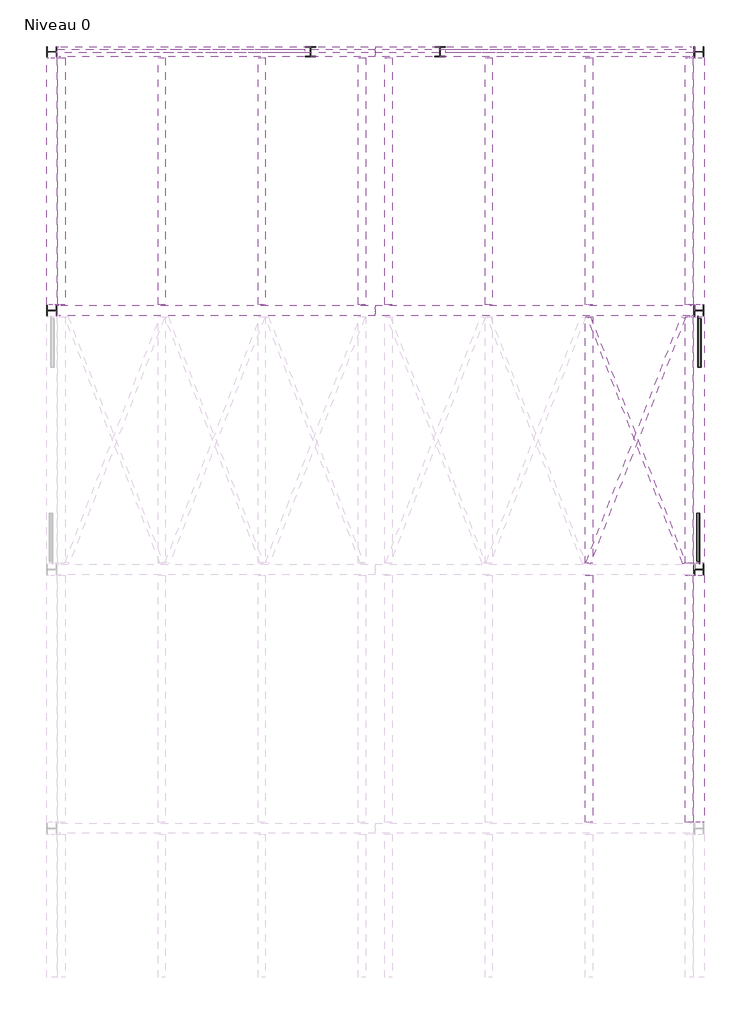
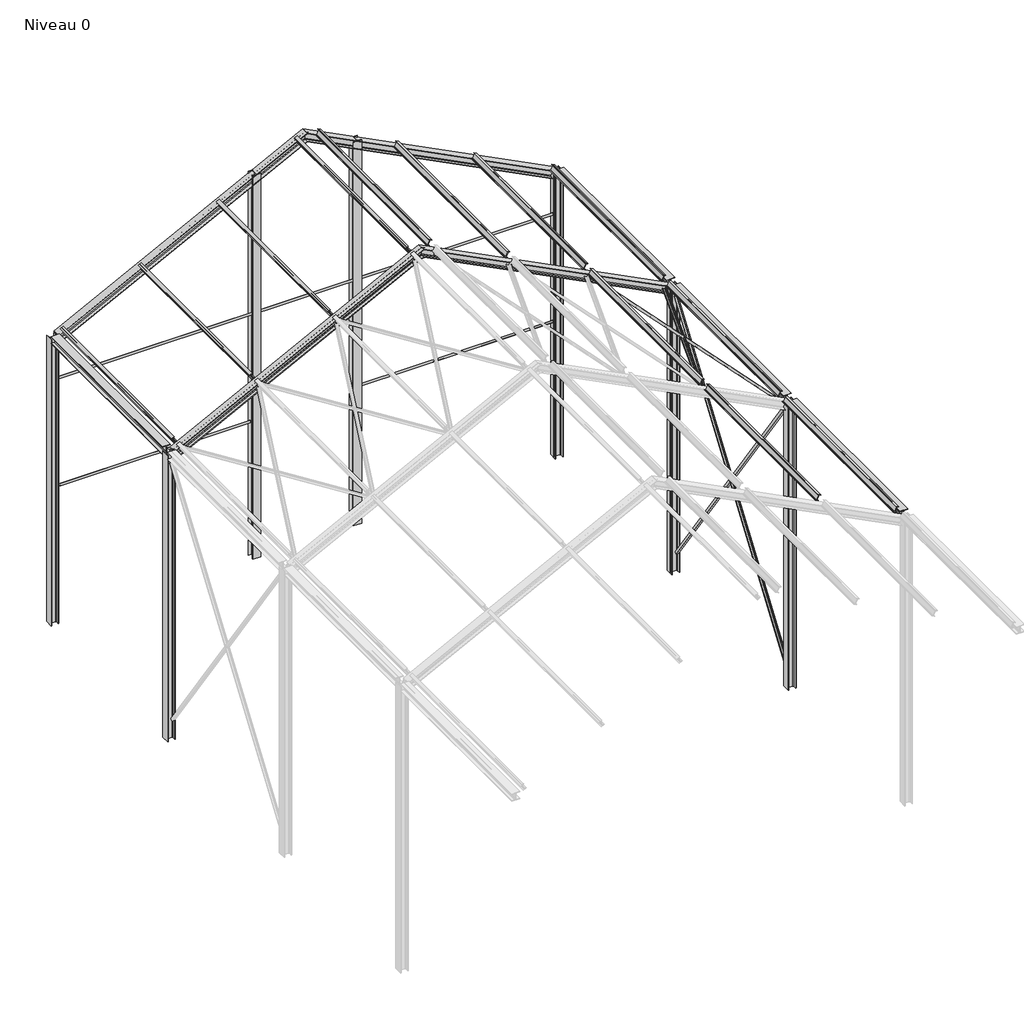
# One storey, part 3 of 3: 27 beams, 7 columns.
"""IFC4 building model written with IfcOpenShell, lengths in millimetres."""

from ifc_helpers import new_model, si_unit, frame, origin, place, context, project, spatial, polyline, circle_curve, ellipse_curve, transform, mapped, element, save
from ifc_brep_helpers import plane_surface, revolved_surface, advanced_brep
from components import hea160_7b7a9898, ipe_ipe120_a764803e, l50x5_0b9c2f02, l50x5_4d45e271, l50x5_e48557e0, l50x5_54bbfbbe, l50x5_995c440c, l50x5_1feda4a4, hea160_ef068d4c, hea160_0ed8a569

model = new_model("IFC4")

# Units and contexts
model_context = context("Model", 3, world=origin())
ifc_project = project(units=[si_unit("LENGTHUNIT", "METRE", prefix="MILLI")], contexts=[model_context])

# Site, building, storey
site = spatial("IfcSite", under=ifc_project)
building = spatial("IfcBuilding", under=site)
storey = spatial("IfcBuildingStorey", under=building, Name="Niveau 0", Elevation=0.0)

# Beams
placement = place(None, origin())
element("IfcBeam", 1, ObjectType="HE-A : HEA160", at=placement, inside=storey, context=model_context, shape_type="AdvancedBrep", body=[
    advanced_brep(
    [(136.5957173, 15920.0, 5609.1403443), (136.5957173, 15982.0, 5609.1403443), (129.7808261, 15997.0, 5622.5028762), (82.5309134, 15997.0, 5715.1497636), (75.7160222, 15982.0, 5728.5122955), (75.7160222, 15920.0, 5728.5122955), (71.6270875, 15920.0, 5736.5298146), (71.6270875, 16080.0, 5736.5298146), (75.7160222, 16080.0, 5728.5122955), (75.7160222, 16018.0, 5728.5122955), (82.5309134, 16003.0, 5715.1497636), (129.7808261, 16003.0, 5622.5028762), (136.5957173, 16018.0, 5609.1403443), (136.5957173, 16080.0, 5609.1403443), (140.684652, 16080.0, 5601.1228252), (140.684652, 15920.0, 5601.1228252), (5000.0, 15920.0, 8089.4765285), (5000.0, 15982.0, 8089.4765285), (5000.0, 15997.0, 8106.3146549), (5000.0, 15997.0, 8223.0589978), (5000.0, 15982.0, 8239.8971242), (5000.0, 15920.0, 8239.8971242), (5000.0, 15920.0, 8250.0), (5000.0, 16080.0, 8250.0), (5000.0, 16080.0, 8239.8971242), (5000.0, 16018.0, 8239.8971242), (5000.0, 16003.0, 8223.0589978), (5000.0, 16003.0, 8106.3146549), (5000.0, 16018.0, 8089.4765285), (5000.0, 16080.0, 8089.4765285), (5000.0, 16080.0, 8079.3736527), (5000.0, 15920.0, 8079.3736527)],
    [
        (0, 1),
        (1, 2, circle_curve(frame((129.7808261, 15982.0, 5622.5028762), z_axis=(0.8908354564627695, 0.0, 0.4543260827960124), x_axis=(0.0, 1.0, 0.0)), 15.0)),
        (2, 3),
        (3, 4, circle_curve(frame((82.5309134, 15982.0, 5715.1497636), z_axis=(0.8908354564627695, 0.0, 0.4543260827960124), x_axis=(0.0, 1.0, 0.0)), 15.0)),
        (4, 5),
        (5, 6),
        (6, 7),
        (7, 8),
        (8, 9),
        (9, 10, circle_curve(frame((82.5309134, 16018.0, 5715.1497636), z_axis=(0.8908354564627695, 0.0, 0.4543260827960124), x_axis=(0.0, 1.0, 0.0)), 15.0)),
        (10, 11),
        (11, 12, circle_curve(frame((129.7808261, 16018.0, 5622.5028762), z_axis=(0.8908354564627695, 0.0, 0.4543260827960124), x_axis=(0.0, 1.0, 0.0)), 15.0)),
        (12, 13),
        (13, 14),
        (14, 15),
        (15, 0),
        (0, 16),
        (16, 17),
        (17, 1),
        (17, 18, ellipse_curve(frame((5000.0, 15982.0, 8106.3146549), z_axis=(1.0, 0.0, 0.0), x_axis=(0.0, 0.0, 1.0)), 16.8381264, 15.0)),
        (18, 2),
        (18, 19),
        (19, 3),
        (19, 20, ellipse_curve(frame((5000.0, 15982.0, 8223.0589978), z_axis=(1.0, 0.0, 0.0), x_axis=(0.0, 0.0, 1.0)), 16.8381264, 15.0)),
        (20, 4),
        (20, 21),
        (21, 5),
        (21, 22),
        (22, 6),
        (22, 23),
        (23, 7),
        (23, 24),
        (24, 8),
        (24, 25),
        (25, 9),
        (25, 26, ellipse_curve(frame((5000.0, 16018.0, 8223.0589978), z_axis=(1.0, 0.0, 0.0), x_axis=(0.0, 0.0, 1.0)), 16.8381264, 15.0)),
        (26, 10),
        (26, 27),
        (27, 11),
        (27, 28, ellipse_curve(frame((5000.0, 16018.0, 8106.3146549), z_axis=(1.0, 0.0, 0.0), x_axis=(0.0, 0.0, 1.0)), 16.8381264, 15.0)),
        (28, 12),
        (28, 29),
        (29, 13),
        (29, 30),
        (30, 14),
        (30, 31),
        (31, 15),
        (31, 16),
    ],
    [
        plane_surface(frame((106.1558697, 16000.0, 5668.8263199), z_axis=(-0.8908354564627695, 0.0, -0.4543260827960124), x_axis=(-0.4543260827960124, 0.0, 0.8908354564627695))),
        plane_surface(frame((136.5957173, 15920.0, 5609.1403443), z_axis=(-0.4543260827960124, 0.0, 0.8908354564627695), x_axis=(0.8908354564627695, 0.0, 0.4543260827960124))),
        revolved_surface(polyline([(5006.814891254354, 15997.0, 8109.790249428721), (129.78082604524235, 15997.0, 5622.502876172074)]), (129.7808261, 15982.0, 5622.5028762), (0.8908354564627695, 0.0, 0.4543260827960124)),
        plane_surface(frame((129.7808261, 15997.0, 5622.5028762), z_axis=(0.0, -1.0, 0.0), x_axis=(0.8908354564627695, 0.0, 0.4543260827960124))),
        revolved_surface(polyline([(5006.8148912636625, 15997.0, 8226.534592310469), (82.5309134, 15997.0, 5715.1497636)]), (82.5309134, 15982.0, 5715.1497636), (0.8908354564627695, 0.0, 0.4543260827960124)),
        plane_surface(frame((75.7160222, 15982.0, 5728.5122955), z_axis=(0.4543260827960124, 0.0, -0.8908354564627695), x_axis=(0.8908354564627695, 0.0, 0.4543260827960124))),
        plane_surface(frame((75.7160222, 15920.0, 5728.5122955), z_axis=(0.0, -1.0, 0.0), x_axis=(0.8908354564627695, 0.0, 0.4543260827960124))),
        plane_surface(frame((71.6270875, 15920.0, 5736.5298146), z_axis=(-0.4543260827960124, 0.0, 0.8908354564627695), x_axis=(0.8908354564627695, 0.0, 0.4543260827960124))),
        plane_surface(frame((71.6270875, 16080.0, 5736.5298146), z_axis=(0.0, 1.0, 0.0), x_axis=(0.8908354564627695, 0.0, 0.4543260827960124))),
        plane_surface(frame((75.7160222, 16080.0, 5728.5122955), z_axis=(0.4543260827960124, 0.0, -0.8908354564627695), x_axis=(0.8908354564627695, 0.0, 0.4543260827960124))),
        revolved_surface(polyline([(5006.8148912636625, 16033.0, 8226.534592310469), (82.5309134, 16033.0, 5715.1497636)]), (82.5309134, 16018.0, 5715.1497636), (0.8908354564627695, 0.0, 0.4543260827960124)),
        plane_surface(frame((82.5309134, 16003.0, 5715.1497636), z_axis=(0.0, 1.0, 0.0), x_axis=(0.8908354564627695, 0.0, 0.4543260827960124))),
        revolved_surface(polyline([(5006.814891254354, 16033.0, 8109.790249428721), (129.78082604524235, 16033.0, 5622.502876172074)]), (129.7808261, 16018.0, 5622.5028762), (0.8908354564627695, 0.0, 0.4543260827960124)),
        plane_surface(frame((136.5957173, 16018.0, 5609.1403443), z_axis=(-0.4543260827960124, 0.0, 0.8908354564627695), x_axis=(0.8908354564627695, 0.0, 0.4543260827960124))),
        plane_surface(frame((136.5957173, 16080.0, 5609.1403443), z_axis=(0.0, 1.0, 0.0), x_axis=(0.8908354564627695, 0.0, 0.4543260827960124))),
        plane_surface(frame((140.684652, 16080.0, 5601.1228252), z_axis=(0.4543260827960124, 0.0, -0.8908354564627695), x_axis=(0.8908354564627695, 0.0, 0.4543260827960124))),
        plane_surface(frame((140.684652, 15920.0, 5601.1228252), z_axis=(0.0, -1.0, 0.0), x_axis=(0.8908354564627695, 0.0, 0.4543260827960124))),
        plane_surface(frame((5000.0, 16000.0, 8079.3736527), z_axis=(1.0, 0.0, 0.0), x_axis=(0.0, -1.0, 0.0))),
    ],
    [
        (0, [[1, 2, 3, 4, 5, 6, 7, 8, 9, 10, 11, 12, 13, 14, 15, 16]]),
        (1, [[-1, 17, 18, 19]]),
        (2, [[-2, -19, 20, 21]]),
        (3, [[-3, -21, 22, 23]]),
        (4, [[-4, -23, 24, 25]]),
        (5, [[-5, -25, 26, 27]]),
        (6, [[-6, -27, 28, 29]]),
        (7, [[-7, -29, 30, 31]]),
        (8, [[-8, -31, 32, 33]]),
        (9, [[-9, -33, 34, 35]]),
        (10, [[-10, -35, 36, 37]]),
        (11, [[-11, -37, 38, 39]]),
        (12, [[-12, -39, 40, 41]]),
        (13, [[-13, -41, 42, 43]]),
        (14, [[-14, -43, 44, 45]]),
        (15, [[-15, -45, 46, 47]]),
        (16, [[-16, -47, 48, -17]]),
        (17, [[-48, -46, -44, -42, -40, -38, -36, -34, -32, -30, -28, -26, -24, -22, -20, -18]]),
    ],
),
])
element("IfcBeam", 2, ObjectType="HE-A : HEA160", at=placement, inside=storey, context=model_context, shape_type="AdvancedBrep", body=[
    advanced_brep(
    [(9863.4042827, 16080.0, 5609.1403443), (9863.4042827, 16018.0, 5609.1403443), (9870.2191739, 16003.0, 5622.5028762), (9917.4690866, 16003.0, 5715.1497636), (9924.2839778, 16018.0, 5728.5122955), (9924.2839778, 16080.0, 5728.5122955), (9928.3729125, 16080.0, 5736.5298146), (9928.3729125, 15920.0, 5736.5298146), (9924.2839778, 15920.0, 5728.5122955), (9924.2839778, 15982.0, 5728.5122955), (9917.4690866, 15997.0, 5715.1497636), (9870.2191739, 15997.0, 5622.5028762), (9863.4042827, 15982.0, 5609.1403443), (9863.4042827, 15920.0, 5609.1403443), (9859.315348, 15920.0, 5601.1228252), (9859.315348, 16080.0, 5601.1228252), (5000.0, 16080.0, 8089.4765285), (5000.0, 16018.0, 8089.4765285), (5000.0, 16003.0, 8106.3146549), (5000.0, 16003.0, 8223.0589978), (5000.0, 16018.0, 8239.8971242), (5000.0, 16080.0, 8239.8971242), (5000.0, 16080.0, 8250.0), (5000.0, 15920.0, 8250.0), (5000.0, 15920.0, 8239.8971242), (5000.0, 15982.0, 8239.8971242), (5000.0, 15997.0, 8223.0589978), (5000.0, 15997.0, 8106.3146549), (5000.0, 15982.0, 8089.4765285), (5000.0, 15920.0, 8089.4765285), (5000.0, 15920.0, 8079.3736527), (5000.0, 16080.0, 8079.3736527)],
    [
        (0, 1),
        (1, 2, circle_curve(frame((9870.2191739, 16018.0, 5622.5028762), z_axis=(-0.8908354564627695, 0.0, 0.4543260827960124), x_axis=(0.0, -1.0, 0.0)), 15.0)),
        (2, 3),
        (3, 4, circle_curve(frame((9917.4690866, 16018.0, 5715.1497636), z_axis=(-0.8908354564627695, 0.0, 0.4543260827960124), x_axis=(0.0, -1.0, 0.0)), 15.0)),
        (4, 5),
        (5, 6),
        (6, 7),
        (7, 8),
        (8, 9),
        (9, 10, circle_curve(frame((9917.4690866, 15982.0, 5715.1497636), z_axis=(-0.8908354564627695, 0.0, 0.4543260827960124), x_axis=(0.0, -1.0, 0.0)), 15.0)),
        (10, 11),
        (11, 12, circle_curve(frame((9870.2191739, 15982.0, 5622.5028762), z_axis=(-0.8908354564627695, 0.0, 0.4543260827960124), x_axis=(0.0, -1.0, 0.0)), 15.0)),
        (12, 13),
        (13, 14),
        (14, 15),
        (15, 0),
        (0, 16),
        (16, 17),
        (17, 1),
        (17, 18, ellipse_curve(frame((5000.0, 16018.0, 8106.3146549), z_axis=(-1.0, 0.0, 0.0), x_axis=(0.0, 0.0, 1.0)), 16.8381264, 15.0)),
        (18, 2),
        (18, 19),
        (19, 3),
        (19, 20, ellipse_curve(frame((5000.0, 16018.0, 8223.0589978), z_axis=(-1.0, 0.0, 0.0), x_axis=(0.0, 0.0, 1.0)), 16.8381264, 15.0)),
        (20, 4),
        (20, 21),
        (21, 5),
        (21, 22),
        (22, 6),
        (22, 23),
        (23, 7),
        (23, 24),
        (24, 8),
        (24, 25),
        (25, 9),
        (25, 26, ellipse_curve(frame((5000.0, 15982.0, 8223.0589978), z_axis=(-1.0, 0.0, 0.0), x_axis=(0.0, 0.0, 1.0)), 16.8381264, 15.0)),
        (26, 10),
        (26, 27),
        (27, 11),
        (27, 28, ellipse_curve(frame((5000.0, 15982.0, 8106.3146549), z_axis=(-1.0, 0.0, 0.0), x_axis=(0.0, 0.0, 1.0)), 16.8381264, 15.0)),
        (28, 12),
        (28, 29),
        (29, 13),
        (29, 30),
        (30, 14),
        (30, 31),
        (31, 15),
        (31, 16),
    ],
    [
        plane_surface(frame((9893.8441303, 16000.0, 5668.8263199), z_axis=(0.8908354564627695, 0.0, -0.4543260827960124), x_axis=(0.4543260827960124, 0.0, 0.8908354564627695))),
        plane_surface(frame((9863.4042827, 16080.0, 5609.1403443), z_axis=(0.4543260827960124, 0.0, 0.8908354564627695), x_axis=(-0.8908354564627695, 0.0, 0.4543260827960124))),
        revolved_surface(polyline([(4993.185108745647, 16003.0, 8109.790249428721), (9870.219173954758, 16003.0, 5622.502876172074)]), (9870.2191739, 16018.0, 5622.5028762), (-0.8908354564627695, 0.0, 0.4543260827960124)),
        plane_surface(frame((9870.2191739, 16003.0, 5622.5028762), z_axis=(0.0, 1.0, 0.0), x_axis=(-0.8908354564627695, 0.0, 0.4543260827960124))),
        revolved_surface(polyline([(4993.1851087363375, 16003.0, 8226.534592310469), (9917.4690866, 16003.0, 5715.1497636)]), (9917.4690866, 16018.0, 5715.1497636), (-0.8908354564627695, 0.0, 0.4543260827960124)),
        plane_surface(frame((9924.2839778, 16018.0, 5728.5122955), z_axis=(-0.4543260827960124, 0.0, -0.8908354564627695), x_axis=(-0.8908354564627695, 0.0, 0.4543260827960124))),
        plane_surface(frame((9924.2839778, 16080.0, 5728.5122955), z_axis=(0.0, 1.0, 0.0), x_axis=(-0.8908354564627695, 0.0, 0.4543260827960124))),
        plane_surface(frame((9928.3729125, 16080.0, 5736.5298146), z_axis=(0.4543260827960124, 0.0, 0.8908354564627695), x_axis=(-0.8908354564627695, 0.0, 0.4543260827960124))),
        plane_surface(frame((9928.3729125, 15920.0, 5736.5298146), z_axis=(0.0, -1.0, 0.0), x_axis=(-0.8908354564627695, 0.0, 0.4543260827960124))),
        plane_surface(frame((9924.2839778, 15920.0, 5728.5122955), z_axis=(-0.4543260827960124, 0.0, -0.8908354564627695), x_axis=(-0.8908354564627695, 0.0, 0.4543260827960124))),
        revolved_surface(polyline([(4993.1851087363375, 15967.0, 8226.534592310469), (9917.4690866, 15967.0, 5715.1497636)]), (9917.4690866, 15982.0, 5715.1497636), (-0.8908354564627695, 0.0, 0.4543260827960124)),
        plane_surface(frame((9917.4690866, 15997.0, 5715.1497636), z_axis=(0.0, -1.0, 0.0), x_axis=(-0.8908354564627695, 0.0, 0.4543260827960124))),
        revolved_surface(polyline([(4993.185108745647, 15967.0, 8109.790249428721), (9870.219173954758, 15967.0, 5622.502876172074)]), (9870.2191739, 15982.0, 5622.5028762), (-0.8908354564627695, 0.0, 0.4543260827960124)),
        plane_surface(frame((9863.4042827, 15982.0, 5609.1403443), z_axis=(0.4543260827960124, 0.0, 0.8908354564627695), x_axis=(-0.8908354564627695, 0.0, 0.4543260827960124))),
        plane_surface(frame((9863.4042827, 15920.0, 5609.1403443), z_axis=(0.0, -1.0, 0.0), x_axis=(-0.8908354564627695, 0.0, 0.4543260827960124))),
        plane_surface(frame((9859.315348, 15920.0, 5601.1228252), z_axis=(-0.4543260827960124, 0.0, -0.8908354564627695), x_axis=(-0.8908354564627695, 0.0, 0.4543260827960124))),
        plane_surface(frame((9859.315348, 16080.0, 5601.1228252), z_axis=(0.0, 1.0, 0.0), x_axis=(-0.8908354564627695, 0.0, 0.4543260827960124))),
        plane_surface(frame((5000.0, 16000.0, 8079.3736527), z_axis=(-1.0, 0.0, 0.0), x_axis=(0.0, 1.0, 0.0))),
    ],
    [
        (0, [[1, 2, 3, 4, 5, 6, 7, 8, 9, 10, 11, 12, 13, 14, 15, 16]]),
        (1, [[-1, 17, 18, 19]]),
        (2, [[-2, -19, 20, 21]]),
        (3, [[-3, -21, 22, 23]]),
        (4, [[-4, -23, 24, 25]]),
        (5, [[-5, -25, 26, 27]]),
        (6, [[-6, -27, 28, 29]]),
        (7, [[-7, -29, 30, 31]]),
        (8, [[-8, -31, 32, 33]]),
        (9, [[-9, -33, 34, 35]]),
        (10, [[-10, -35, 36, 37]]),
        (11, [[-11, -37, 38, 39]]),
        (12, [[-12, -39, 40, 41]]),
        (13, [[-13, -41, 42, 43]]),
        (14, [[-14, -43, 44, 45]]),
        (15, [[-15, -45, 46, 47]]),
        (16, [[-16, -47, 48, -17]]),
        (17, [[-48, -46, -44, -42, -40, -38, -36, -34, -32, -30, -28, -26, -24, -22, -20, -18]]),
    ],
),
])
element("IfcBeam", 3, ObjectType="HE-A : HEA160", at=placement, inside=storey, context=model_context, shape_type="AdvancedBrep", body=[
    advanced_brep(
    [(136.5957173, 19920.0, 5609.1403443), (136.5957173, 19982.0, 5609.1403443), (129.7808261, 19997.0, 5622.5028762), (82.5309134, 19997.0, 5715.1497636), (75.7160222, 19982.0, 5728.5122955), (75.7160222, 19920.0, 5728.5122955), (71.6270875, 19920.0, 5736.5298146), (71.6270875, 20080.0, 5736.5298146), (75.7160222, 20080.0, 5728.5122955), (75.7160222, 20018.0, 5728.5122955), (82.5309134, 20003.0, 5715.1497636), (129.7808261, 20003.0, 5622.5028762), (136.5957173, 20018.0, 5609.1403443), (136.5957173, 20080.0, 5609.1403443), (140.684652, 20080.0, 5601.1228252), (140.684652, 19920.0, 5601.1228252), (5000.0, 19920.0, 8089.4765285), (5000.0, 19982.0, 8089.4765285), (5000.0, 19997.0, 8106.3146549), (5000.0, 19997.0, 8223.0589978), (5000.0, 19982.0, 8239.8971242), (5000.0, 19920.0, 8239.8971242), (5000.0, 19920.0, 8250.0), (5000.0, 20080.0, 8250.0), (5000.0, 20080.0, 8239.8971242), (5000.0, 20018.0, 8239.8971242), (5000.0, 20003.0, 8223.0589978), (5000.0, 20003.0, 8106.3146549), (5000.0, 20018.0, 8089.4765285), (5000.0, 20080.0, 8089.4765285), (5000.0, 20080.0, 8079.3736527), (5000.0, 19920.0, 8079.3736527)],
    [
        (0, 1),
        (1, 2, circle_curve(frame((129.7808261, 19982.0, 5622.5028762), z_axis=(0.8908354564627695, 0.0, 0.4543260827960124), x_axis=(0.0, 1.0, 0.0)), 15.0)),
        (2, 3),
        (3, 4, circle_curve(frame((82.5309134, 19982.0, 5715.1497636), z_axis=(0.8908354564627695, 0.0, 0.4543260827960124), x_axis=(0.0, 1.0, 0.0)), 15.0)),
        (4, 5),
        (5, 6),
        (6, 7),
        (7, 8),
        (8, 9),
        (9, 10, circle_curve(frame((82.5309134, 20018.0, 5715.1497636), z_axis=(0.8908354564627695, 0.0, 0.4543260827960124), x_axis=(0.0, 1.0, 0.0)), 15.0)),
        (10, 11),
        (11, 12, circle_curve(frame((129.7808261, 20018.0, 5622.5028762), z_axis=(0.8908354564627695, 0.0, 0.4543260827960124), x_axis=(0.0, 1.0, 0.0)), 15.0)),
        (12, 13),
        (13, 14),
        (14, 15),
        (15, 0),
        (0, 16),
        (16, 17),
        (17, 1),
        (17, 18, ellipse_curve(frame((5000.0, 19982.0, 8106.3146549), z_axis=(1.0, 0.0, 0.0), x_axis=(0.0, 0.0, 1.0)), 16.8381264, 15.0)),
        (18, 2),
        (18, 19),
        (19, 3),
        (19, 20, ellipse_curve(frame((5000.0, 19982.0, 8223.0589978), z_axis=(1.0, 0.0, 0.0), x_axis=(0.0, 0.0, 1.0)), 16.8381264, 15.0)),
        (20, 4),
        (20, 21),
        (21, 5),
        (21, 22),
        (22, 6),
        (22, 23),
        (23, 7),
        (23, 24),
        (24, 8),
        (24, 25),
        (25, 9),
        (25, 26, ellipse_curve(frame((5000.0, 20018.0, 8223.0589978), z_axis=(1.0, 0.0, 0.0), x_axis=(0.0, 0.0, 1.0)), 16.8381264, 15.0)),
        (26, 10),
        (26, 27),
        (27, 11),
        (27, 28, ellipse_curve(frame((5000.0, 20018.0, 8106.3146549), z_axis=(1.0, 0.0, 0.0), x_axis=(0.0, 0.0, 1.0)), 16.8381264, 15.0)),
        (28, 12),
        (28, 29),
        (29, 13),
        (29, 30),
        (30, 14),
        (30, 31),
        (31, 15),
        (31, 16),
    ],
    [
        plane_surface(frame((106.1558697, 20000.0, 5668.8263199), z_axis=(-0.8908354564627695, 0.0, -0.4543260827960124), x_axis=(-0.4543260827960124, 0.0, 0.8908354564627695))),
        plane_surface(frame((136.5957173, 19920.0, 5609.1403443), z_axis=(-0.4543260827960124, 0.0, 0.8908354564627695), x_axis=(0.8908354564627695, 0.0, 0.4543260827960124))),
        revolved_surface(polyline([(5006.814891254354, 19997.0, 8109.790249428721), (129.78082604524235, 19997.0, 5622.502876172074)]), (129.7808261, 19982.0, 5622.5028762), (0.8908354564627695, 0.0, 0.4543260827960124)),
        plane_surface(frame((129.7808261, 19997.0, 5622.5028762), z_axis=(0.0, -1.0, 0.0), x_axis=(0.8908354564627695, 0.0, 0.4543260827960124))),
        revolved_surface(polyline([(5006.8148912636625, 19997.0, 8226.534592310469), (82.5309134, 19997.0, 5715.1497636)]), (82.5309134, 19982.0, 5715.1497636), (0.8908354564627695, 0.0, 0.4543260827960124)),
        plane_surface(frame((75.7160222, 19982.0, 5728.5122955), z_axis=(0.4543260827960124, 0.0, -0.8908354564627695), x_axis=(0.8908354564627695, 0.0, 0.4543260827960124))),
        plane_surface(frame((75.7160222, 19920.0, 5728.5122955), z_axis=(0.0, -1.0, 0.0), x_axis=(0.8908354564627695, 0.0, 0.4543260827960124))),
        plane_surface(frame((71.6270875, 19920.0, 5736.5298146), z_axis=(-0.4543260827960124, 0.0, 0.8908354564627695), x_axis=(0.8908354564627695, 0.0, 0.4543260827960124))),
        plane_surface(frame((71.6270875, 20080.0, 5736.5298146), z_axis=(0.0, 1.0, 0.0), x_axis=(0.8908354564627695, 0.0, 0.4543260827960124))),
        plane_surface(frame((75.7160222, 20080.0, 5728.5122955), z_axis=(0.4543260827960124, 0.0, -0.8908354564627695), x_axis=(0.8908354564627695, 0.0, 0.4543260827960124))),
        revolved_surface(polyline([(5006.8148912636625, 20033.0, 8226.534592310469), (82.5309134, 20033.0, 5715.1497636)]), (82.5309134, 20018.0, 5715.1497636), (0.8908354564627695, 0.0, 0.4543260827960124)),
        plane_surface(frame((82.5309134, 20003.0, 5715.1497636), z_axis=(0.0, 1.0, 0.0), x_axis=(0.8908354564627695, 0.0, 0.4543260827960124))),
        revolved_surface(polyline([(5006.814891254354, 20033.0, 8109.790249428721), (129.78082604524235, 20033.0, 5622.502876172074)]), (129.7808261, 20018.0, 5622.5028762), (0.8908354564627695, 0.0, 0.4543260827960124)),
        plane_surface(frame((136.5957173, 20018.0, 5609.1403443), z_axis=(-0.4543260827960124, 0.0, 0.8908354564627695), x_axis=(0.8908354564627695, 0.0, 0.4543260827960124))),
        plane_surface(frame((136.5957173, 20080.0, 5609.1403443), z_axis=(0.0, 1.0, 0.0), x_axis=(0.8908354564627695, 0.0, 0.4543260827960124))),
        plane_surface(frame((140.684652, 20080.0, 5601.1228252), z_axis=(0.4543260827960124, 0.0, -0.8908354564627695), x_axis=(0.8908354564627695, 0.0, 0.4543260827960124))),
        plane_surface(frame((140.684652, 19920.0, 5601.1228252), z_axis=(0.0, -1.0, 0.0), x_axis=(0.8908354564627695, 0.0, 0.4543260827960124))),
        plane_surface(frame((5000.0, 20000.0, 8079.3736527), z_axis=(1.0, 0.0, 0.0), x_axis=(0.0, -1.0, 0.0))),
    ],
    [
        (0, [[1, 2, 3, 4, 5, 6, 7, 8, 9, 10, 11, 12, 13, 14, 15, 16]]),
        (1, [[-1, 17, 18, 19]]),
        (2, [[-2, -19, 20, 21]]),
        (3, [[-3, -21, 22, 23]]),
        (4, [[-4, -23, 24, 25]]),
        (5, [[-5, -25, 26, 27]]),
        (6, [[-6, -27, 28, 29]]),
        (7, [[-7, -29, 30, 31]]),
        (8, [[-8, -31, 32, 33]]),
        (9, [[-9, -33, 34, 35]]),
        (10, [[-10, -35, 36, 37]]),
        (11, [[-11, -37, 38, 39]]),
        (12, [[-12, -39, 40, 41]]),
        (13, [[-13, -41, 42, 43]]),
        (14, [[-14, -43, 44, 45]]),
        (15, [[-15, -45, 46, 47]]),
        (16, [[-16, -47, 48, -17]]),
        (17, [[-48, -46, -44, -42, -40, -38, -36, -34, -32, -30, -28, -26, -24, -22, -20, -18]]),
    ],
),
])
element("IfcBeam", 4, ObjectType="HE-A : HEA160", at=placement, inside=storey, context=model_context, shape_type="AdvancedBrep", body=[
    advanced_brep(
    [(9863.4042827, 20080.0, 5609.1403443), (9863.4042827, 20018.0, 5609.1403443), (9870.2191739, 20003.0, 5622.5028762), (9917.4690866, 20003.0, 5715.1497636), (9924.2839778, 20018.0, 5728.5122955), (9924.2839778, 20080.0, 5728.5122955), (9928.3729125, 20080.0, 5736.5298146), (9928.3729125, 19920.0, 5736.5298146), (9924.2839778, 19920.0, 5728.5122955), (9924.2839778, 19982.0, 5728.5122955), (9917.4690866, 19997.0, 5715.1497636), (9870.2191739, 19997.0, 5622.5028762), (9863.4042827, 19982.0, 5609.1403443), (9863.4042827, 19920.0, 5609.1403443), (9859.315348, 19920.0, 5601.1228252), (9859.315348, 20080.0, 5601.1228252), (5000.0, 20080.0, 8089.4765285), (5000.0, 20018.0, 8089.4765285), (5000.0, 20003.0, 8106.3146549), (5000.0, 20003.0, 8223.0589978), (5000.0, 20018.0, 8239.8971242), (5000.0, 20080.0, 8239.8971242), (5000.0, 20080.0, 8250.0), (5000.0, 19920.0, 8250.0), (5000.0, 19920.0, 8239.8971242), (5000.0, 19982.0, 8239.8971242), (5000.0, 19997.0, 8223.0589978), (5000.0, 19997.0, 8106.3146549), (5000.0, 19982.0, 8089.4765285), (5000.0, 19920.0, 8089.4765285), (5000.0, 19920.0, 8079.3736527), (5000.0, 20080.0, 8079.3736527)],
    [
        (0, 1),
        (1, 2, circle_curve(frame((9870.2191739, 20018.0, 5622.5028762), z_axis=(-0.8908354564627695, 0.0, 0.4543260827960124), x_axis=(0.0, -1.0, 0.0)), 15.0)),
        (2, 3),
        (3, 4, circle_curve(frame((9917.4690866, 20018.0, 5715.1497636), z_axis=(-0.8908354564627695, 0.0, 0.4543260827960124), x_axis=(0.0, -1.0, 0.0)), 15.0)),
        (4, 5),
        (5, 6),
        (6, 7),
        (7, 8),
        (8, 9),
        (9, 10, circle_curve(frame((9917.4690866, 19982.0, 5715.1497636), z_axis=(-0.8908354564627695, 0.0, 0.4543260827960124), x_axis=(0.0, -1.0, 0.0)), 15.0)),
        (10, 11),
        (11, 12, circle_curve(frame((9870.2191739, 19982.0, 5622.5028762), z_axis=(-0.8908354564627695, 0.0, 0.4543260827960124), x_axis=(0.0, -1.0, 0.0)), 15.0)),
        (12, 13),
        (13, 14),
        (14, 15),
        (15, 0),
        (0, 16),
        (16, 17),
        (17, 1),
        (17, 18, ellipse_curve(frame((5000.0, 20018.0, 8106.3146549), z_axis=(-1.0, 0.0, 0.0), x_axis=(0.0, 0.0, 1.0)), 16.8381264, 15.0)),
        (18, 2),
        (18, 19),
        (19, 3),
        (19, 20, ellipse_curve(frame((5000.0, 20018.0, 8223.0589978), z_axis=(-1.0, 0.0, 0.0), x_axis=(0.0, 0.0, 1.0)), 16.8381264, 15.0)),
        (20, 4),
        (20, 21),
        (21, 5),
        (21, 22),
        (22, 6),
        (22, 23),
        (23, 7),
        (23, 24),
        (24, 8),
        (24, 25),
        (25, 9),
        (25, 26, ellipse_curve(frame((5000.0, 19982.0, 8223.0589978), z_axis=(-1.0, 0.0, 0.0), x_axis=(0.0, 0.0, 1.0)), 16.8381264, 15.0)),
        (26, 10),
        (26, 27),
        (27, 11),
        (27, 28, ellipse_curve(frame((5000.0, 19982.0, 8106.3146549), z_axis=(-1.0, 0.0, 0.0), x_axis=(0.0, 0.0, 1.0)), 16.8381264, 15.0)),
        (28, 12),
        (28, 29),
        (29, 13),
        (29, 30),
        (30, 14),
        (30, 31),
        (31, 15),
        (31, 16),
    ],
    [
        plane_surface(frame((9893.8441303, 20000.0, 5668.8263199), z_axis=(0.8908354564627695, 0.0, -0.4543260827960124), x_axis=(0.4543260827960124, 0.0, 0.8908354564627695))),
        plane_surface(frame((9863.4042827, 20080.0, 5609.1403443), z_axis=(0.4543260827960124, 0.0, 0.8908354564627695), x_axis=(-0.8908354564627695, 0.0, 0.4543260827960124))),
        revolved_surface(polyline([(4993.185108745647, 20003.0, 8109.790249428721), (9870.219173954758, 20003.0, 5622.502876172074)]), (9870.2191739, 20018.0, 5622.5028762), (-0.8908354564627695, 0.0, 0.4543260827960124)),
        plane_surface(frame((9870.2191739, 20003.0, 5622.5028762), z_axis=(0.0, 1.0, 0.0), x_axis=(-0.8908354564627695, 0.0, 0.4543260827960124))),
        revolved_surface(polyline([(4993.1851087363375, 20003.0, 8226.534592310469), (9917.4690866, 20003.0, 5715.1497636)]), (9917.4690866, 20018.0, 5715.1497636), (-0.8908354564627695, 0.0, 0.4543260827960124)),
        plane_surface(frame((9924.2839778, 20018.0, 5728.5122955), z_axis=(-0.4543260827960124, 0.0, -0.8908354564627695), x_axis=(-0.8908354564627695, 0.0, 0.4543260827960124))),
        plane_surface(frame((9924.2839778, 20080.0, 5728.5122955), z_axis=(0.0, 1.0, 0.0), x_axis=(-0.8908354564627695, 0.0, 0.4543260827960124))),
        plane_surface(frame((9928.3729125, 20080.0, 5736.5298146), z_axis=(0.4543260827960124, 0.0, 0.8908354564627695), x_axis=(-0.8908354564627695, 0.0, 0.4543260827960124))),
        plane_surface(frame((9928.3729125, 19920.0, 5736.5298146), z_axis=(0.0, -1.0, 0.0), x_axis=(-0.8908354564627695, 0.0, 0.4543260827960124))),
        plane_surface(frame((9924.2839778, 19920.0, 5728.5122955), z_axis=(-0.4543260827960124, 0.0, -0.8908354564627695), x_axis=(-0.8908354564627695, 0.0, 0.4543260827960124))),
        revolved_surface(polyline([(4993.1851087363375, 19967.0, 8226.534592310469), (9917.4690866, 19967.0, 5715.1497636)]), (9917.4690866, 19982.0, 5715.1497636), (-0.8908354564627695, 0.0, 0.4543260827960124)),
        plane_surface(frame((9917.4690866, 19997.0, 5715.1497636), z_axis=(0.0, -1.0, 0.0), x_axis=(-0.8908354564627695, 0.0, 0.4543260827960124))),
        revolved_surface(polyline([(4993.185108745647, 19967.0, 8109.790249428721), (9870.219173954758, 19967.0, 5622.502876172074)]), (9870.2191739, 19982.0, 5622.5028762), (-0.8908354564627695, 0.0, 0.4543260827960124)),
        plane_surface(frame((9863.4042827, 19982.0, 5609.1403443), z_axis=(0.4543260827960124, 0.0, 0.8908354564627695), x_axis=(-0.8908354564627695, 0.0, 0.4543260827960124))),
        plane_surface(frame((9863.4042827, 19920.0, 5609.1403443), z_axis=(0.0, -1.0, 0.0), x_axis=(-0.8908354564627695, 0.0, 0.4543260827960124))),
        plane_surface(frame((9859.315348, 19920.0, 5601.1228252), z_axis=(-0.4543260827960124, 0.0, -0.8908354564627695), x_axis=(-0.8908354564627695, 0.0, 0.4543260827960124))),
        plane_surface(frame((9859.315348, 20080.0, 5601.1228252), z_axis=(0.0, 1.0, 0.0), x_axis=(-0.8908354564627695, 0.0, 0.4543260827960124))),
        plane_surface(frame((5000.0, 20000.0, 8079.3736527), z_axis=(-1.0, 0.0, 0.0), x_axis=(0.0, 1.0, 0.0))),
    ],
    [
        (0, [[1, 2, 3, 4, 5, 6, 7, 8, 9, 10, 11, 12, 13, 14, 15, 16]]),
        (1, [[-1, 17, 18, 19]]),
        (2, [[-2, -19, 20, 21]]),
        (3, [[-3, -21, 22, 23]]),
        (4, [[-4, -23, 24, 25]]),
        (5, [[-5, -25, 26, 27]]),
        (6, [[-6, -27, 28, 29]]),
        (7, [[-7, -29, 30, 31]]),
        (8, [[-8, -31, 32, 33]]),
        (9, [[-9, -33, 34, 35]]),
        (10, [[-10, -35, 36, 37]]),
        (11, [[-11, -37, 38, 39]]),
        (12, [[-12, -39, 40, 41]]),
        (13, [[-13, -41, 42, 43]]),
        (14, [[-14, -43, 44, 45]]),
        (15, [[-15, -45, 46, 47]]),
        (16, [[-16, -47, 48, -17]]),
        (17, [[-48, -46, -44, -42, -40, -38, -36, -34, -32, -30, -28, -26, -24, -22, -20, -18]]),
    ],
),
])
hea160_shape = hea160_7b7a9898(model_context)
element("IfcBeam", 5, ObjectType="HE-A : HEA160", at=placement, inside=storey, context=model_context, shape_type="MappedRepresentation", body=[
    mapped(hea160_shape, transform((0.0, 18000.0, 5700.0), x_axis=(0.0, -1.0, 0.0), y_axis=(1.0, 0.0, 0.0), z_axis=(0.0, 0.0, 1.0))),
])
element("IfcBeam", 6, ObjectType="HE-A : HEA160", at=placement, inside=storey, context=model_context, shape_type="MappedRepresentation", body=[
    mapped(hea160_shape, transform((10000.0, 10000.0, 5700.0), x_axis=(0.0, -1.0, 0.0), y_axis=(1.0, 0.0, 0.0), z_axis=(0.0, 0.0, 1.0))),
])
element("IfcBeam", 7, ObjectType="HE-A : HEA160", at=placement, inside=storey, context=model_context, shape_type="MappedRepresentation", body=[
    mapped(hea160_shape, transform((10000.0, 14000.0, 5700.0), x_axis=(0.0, -1.0, 0.0), y_axis=(1.0, 0.0, 0.0), z_axis=(0.0, 0.0, 1.0))),
])
element("IfcBeam", 8, ObjectType="HE-A : HEA160", at=placement, inside=storey, context=model_context, shape_type="MappedRepresentation", body=[
    mapped(hea160_shape, transform((10000.0, 18000.0, 5700.0), x_axis=(0.0, -1.0, 0.0), y_axis=(1.0, 0.0, 0.0), z_axis=(0.0, 0.0, 1.0))),
])
ipe_ipe120_shape = ipe_ipe120_a764803e(model_context)
element("IfcBeam", 9, ObjectType="IPE : IPE120", at=placement, inside=storey, context=model_context, shape_type="MappedRepresentation", body=[
    mapped(ipe_ipe120_shape, transform((150.9075263, 18000.0, 5844.3153439), x_axis=(0.0, -1.0, 0.0), y_axis=(0.8908354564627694, 0.0, 0.4543260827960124), z_axis=(-0.4543260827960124, 0.0, 0.8908354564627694))),
])
element("IfcBeam", 10, ObjectType="IPE : IPE120", at=placement, inside=storey, context=model_context, shape_type="MappedRepresentation", body=[
    mapped(ipe_ipe120_shape, transform((1698.7961321, 18000.0, 6633.7385329), x_axis=(0.0, -1.0, 0.0), y_axis=(0.8908354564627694, 0.0, 0.4543260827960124), z_axis=(-0.4543260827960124, 0.0, 0.8908354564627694))),
])
element("IfcBeam", 11, ObjectType="IPE : IPE120", at=placement, inside=storey, context=model_context, shape_type="MappedRepresentation", body=[
    mapped(ipe_ipe120_shape, transform((3246.6847379, 18000.0, 7423.1617219), x_axis=(0.0, -1.0, 0.0), y_axis=(0.8908354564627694, 0.0, 0.4543260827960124), z_axis=(-0.4543260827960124, 0.0, 0.8908354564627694))),
])
element("IfcBeam", 12, ObjectType="IPE : IPE120", at=placement, inside=storey, context=model_context, shape_type="MappedRepresentation", body=[
    mapped(ipe_ipe120_shape, transform((4794.5733437, 18000.0, 8212.5849108), x_axis=(0.0, -1.0, 0.0), y_axis=(0.8908354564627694, 0.0, 0.4543260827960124), z_axis=(-0.4543260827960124, 0.0, 0.8908354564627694))),
])
element("IfcBeam", 13, ObjectType="IPE : IPE120", at=placement, inside=storey, context=model_context, shape_type="MappedRepresentation", body=[
    mapped(ipe_ipe120_shape, transform((5205.4266563, 18000.0, 8212.5849108), x_axis=(0.0, -1.0, 0.0), y_axis=(0.8908354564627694, 0.0, -0.4543260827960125), z_axis=(0.4543260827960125, 0.0, 0.8908354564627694))),
])
element("IfcBeam", 14, ObjectType="IPE : IPE120", at=placement, inside=storey, context=model_context, shape_type="MappedRepresentation", body=[
    mapped(ipe_ipe120_shape, transform((6753.3152621, 18000.0, 7423.1617219), x_axis=(0.0, -1.0, 0.0), y_axis=(0.8908354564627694, 0.0, -0.4543260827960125), z_axis=(0.4543260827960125, 0.0, 0.8908354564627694))),
])
element("IfcBeam", 15, ObjectType="IPE : IPE120", at=placement, inside=storey, context=model_context, shape_type="MappedRepresentation", body=[
    mapped(ipe_ipe120_shape, transform((8301.2038679, 10000.0, 6633.7385329), x_axis=(0.0, -1.0, 0.0), y_axis=(0.8908354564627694, 0.0, -0.4543260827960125), z_axis=(0.4543260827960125, 0.0, 0.8908354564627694))),
])
element("IfcBeam", 16, ObjectType="IPE : IPE120", at=placement, inside=storey, context=model_context, shape_type="MappedRepresentation", body=[
    mapped(ipe_ipe120_shape, transform((8301.2038679, 14000.0, 6633.7385329), x_axis=(0.0, -1.0, 0.0), y_axis=(0.8908354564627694, 0.0, -0.4543260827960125), z_axis=(0.4543260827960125, 0.0, 0.8908354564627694))),
])
element("IfcBeam", 17, ObjectType="IPE : IPE120", at=placement, inside=storey, context=model_context, shape_type="MappedRepresentation", body=[
    mapped(ipe_ipe120_shape, transform((8301.2038679, 18000.0, 6633.7385329), x_axis=(0.0, -1.0, 0.0), y_axis=(0.8908354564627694, 0.0, -0.4543260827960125), z_axis=(0.4543260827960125, 0.0, 0.8908354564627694))),
])
element("IfcBeam", 18, ObjectType="IPE : IPE120", at=placement, inside=storey, context=model_context, shape_type="MappedRepresentation", body=[
    mapped(ipe_ipe120_shape, transform((9849.0924737, 10000.0, 5844.3153439), x_axis=(0.0, -1.0, 0.0), y_axis=(0.8908354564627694, 0.0, -0.4543260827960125), z_axis=(0.4543260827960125, 0.0, 0.8908354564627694))),
])
element("IfcBeam", 19, ObjectType="IPE : IPE120", at=placement, inside=storey, context=model_context, shape_type="MappedRepresentation", body=[
    mapped(ipe_ipe120_shape, transform((9849.0924737, 14000.0, 5844.3153439), x_axis=(0.0, -1.0, 0.0), y_axis=(0.8908354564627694, 0.0, -0.4543260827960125), z_axis=(0.4543260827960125, 0.0, 0.8908354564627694))),
])
element("IfcBeam", 20, ObjectType="IPE : IPE120", at=placement, inside=storey, context=model_context, shape_type="MappedRepresentation", body=[
    mapped(ipe_ipe120_shape, transform((9849.0924737, 18000.0, 5844.3153439), x_axis=(0.0, -1.0, 0.0), y_axis=(0.8908354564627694, 0.0, -0.4543260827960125), z_axis=(0.4543260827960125, 0.0, 0.8908354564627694))),
])
l50x5_shape = l50x5_0b9c2f02(model_context)
element("IfcBeam", 21, ObjectType="Cornière à ailes égales : L50x5", at=placement, inside=storey, context=model_context, shape_type="MappedRepresentation", body=[
    mapped(l50x5_shape, transform((8000.0, 20000.0, 2539.0), x_axis=(-1.0, 0.0, 0.0), y_axis=(0.0, -1.0, 0.0), z_axis=(0.0, 0.0, 1.0))),
])
l50x5_2_shape = l50x5_4d45e271(model_context)
element("IfcBeam", 22, ObjectType="Cornière à ailes égales : L50x5", at=placement, inside=storey, context=model_context, shape_type="MappedRepresentation", body=[
    mapped(l50x5_2_shape, transform((2000.0, 20000.0, 2539.0), x_axis=(-1.0, 0.0, 0.0), y_axis=(0.0, -1.0, 0.0), z_axis=(0.0, 0.0, 1.0))),
])
l50x5_3_shape = l50x5_e48557e0(model_context)
element("IfcBeam", 23, ObjectType="Cornière à ailes égales : L50x5", at=placement, inside=storey, context=model_context, shape_type="MappedRepresentation", body=[
    mapped(l50x5_3_shape, transform((10000.0, 14009.0041236, 2843.6813168), x_axis=(0.0, -0.5744257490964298, -0.818556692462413), y_axis=(1.0, 0.0, 0.0), z_axis=(0.0, -0.818556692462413, 0.5744257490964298))),
])
element("IfcBeam", 24, ObjectType="Cornière à ailes égales : L50x5", at=placement, inside=storey, context=model_context, shape_type="MappedRepresentation", body=[
    mapped(l50x5_3_shape, transform((10000.0, 13990.9958764, 2843.6813168), x_axis=(0.0, 0.5744257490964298, -0.818556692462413), y_axis=(-1.0, 0.0, 0.0), z_axis=(0.0, 0.818556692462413, 0.5744257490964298))),
])
l50x5_4_shape = l50x5_54bbfbbe(model_context)
element("IfcBeam", 25, ObjectType="Cornière à ailes égales : L50x5", at=placement, inside=storey, context=model_context, shape_type="MappedRepresentation", body=[
    mapped(l50x5_4_shape, transform((5000.0, 20000.0, 4789.0), x_axis=(-1.0, 0.0, 0.0), y_axis=(0.0, -1.0, 0.0), z_axis=(0.0, 0.0, 1.0))),
])
l50x5_5_shape = l50x5_995c440c(model_context)
element("IfcBeam", 26, ObjectType="Cornière à ailes égales : L50x5", at=placement, inside=storey, context=model_context, shape_type="MappedRepresentation", body=[
    mapped(l50x5_5_shape, transform((9031.5328668, 14000.0, 6153.5067346), x_axis=(-0.3549311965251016, -0.9172008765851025, 0.1810149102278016), y_axis=(0.8170750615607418, -0.3984250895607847, -0.41670828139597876), z_axis=(0.4543260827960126, 0.0, 0.8908354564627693))),
])
l50x5_6_shape = l50x5_1feda4a4(model_context)
element("IfcBeam", 27, ObjectType="Cornière à ailes égales : L50x5", at=placement, inside=storey, context=model_context, shape_type="MappedRepresentation", body=[
    mapped(l50x5_6_shape, transform((9031.5328668, 14000.0, 6153.5067346), x_axis=(-0.3549311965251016, 0.9172008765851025, 0.1810149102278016), y_axis=(-0.8170750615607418, -0.3984250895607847, 0.41670828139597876), z_axis=(0.4543260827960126, 0.0, 0.8908354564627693))),
])

# Columns
hea160_2_shape = hea160_ef068d4c(model_context)
element("IfcColumn", 28, ObjectType="Poteau HE-A : HEA160", at=placement, inside=storey, context=model_context, shape_type="MappedRepresentation", body=[
    mapped(hea160_2_shape, transform((10000.0, 12000.0, 0.0), x_axis=(0.0, 1.0000000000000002, 0.0), y_axis=(-1.0000000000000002, 0.0, 0.0), z_axis=(0.0, 0.0, 1.0))),
])
element("IfcColumn", 29, ObjectType="Poteau HE-A : HEA160", at=placement, inside=storey, context=model_context, shape_type="MappedRepresentation", body=[
    mapped(hea160_2_shape, transform((0.0, 16000.0, 0.0), x_axis=(0.0, 1.0000000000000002, 0.0), y_axis=(-1.0000000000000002, 0.0, 0.0), z_axis=(0.0, 0.0, 1.0))),
])
element("IfcColumn", 30, ObjectType="Poteau HE-A : HEA160", at=placement, inside=storey, context=model_context, shape_type="MappedRepresentation", body=[
    mapped(hea160_2_shape, transform((10000.0, 16000.0, 0.0), x_axis=(0.0, 1.0000000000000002, 0.0), y_axis=(-1.0000000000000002, 0.0, 0.0), z_axis=(0.0, 0.0, 1.0))),
])
element("IfcColumn", 31, ObjectType="Poteau HE-A : HEA160", at=placement, inside=storey, context=model_context, shape_type="MappedRepresentation", body=[
    mapped(hea160_2_shape, transform((0.0, 20000.0, 0.0), x_axis=(0.0, 1.0000000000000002, 0.0), y_axis=(-1.0000000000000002, 0.0, 0.0), z_axis=(0.0, 0.0, 1.0))),
])
element("IfcColumn", 32, ObjectType="Poteau HE-A : HEA160", at=placement, inside=storey, context=model_context, shape_type="MappedRepresentation", body=[
    mapped(hea160_2_shape, transform((10000.0, 20000.0, 0.0), x_axis=(0.0, 1.0000000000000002, 0.0), y_axis=(-1.0000000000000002, 0.0, 0.0), z_axis=(0.0, 0.0, 1.0))),
])
hea160_3_shape = hea160_0ed8a569(model_context)
element("IfcColumn", 33, ObjectType="Poteau HE-A : HEA160", at=placement, inside=storey, context=model_context, shape_type="MappedRepresentation", body=[
    mapped(hea160_3_shape, transform((4000.0, 20000.0, 0.0), x_axis=(-1.0, 0.0, 0.0), y_axis=(0.0, -1.0, 0.0), z_axis=(0.0, 0.0, 1.0))),
])
element("IfcColumn", 34, ObjectType="Poteau HE-A : HEA160", at=placement, inside=storey, context=model_context, shape_type="MappedRepresentation", body=[
    mapped(hea160_3_shape, transform((6000.0, 20000.0, 0.0), x_axis=(-1.0, 0.0, 0.0), y_axis=(0.0, -1.0, 0.0), z_axis=(0.0, 0.0, 1.0))),
])

save(model, "model.ifc")
